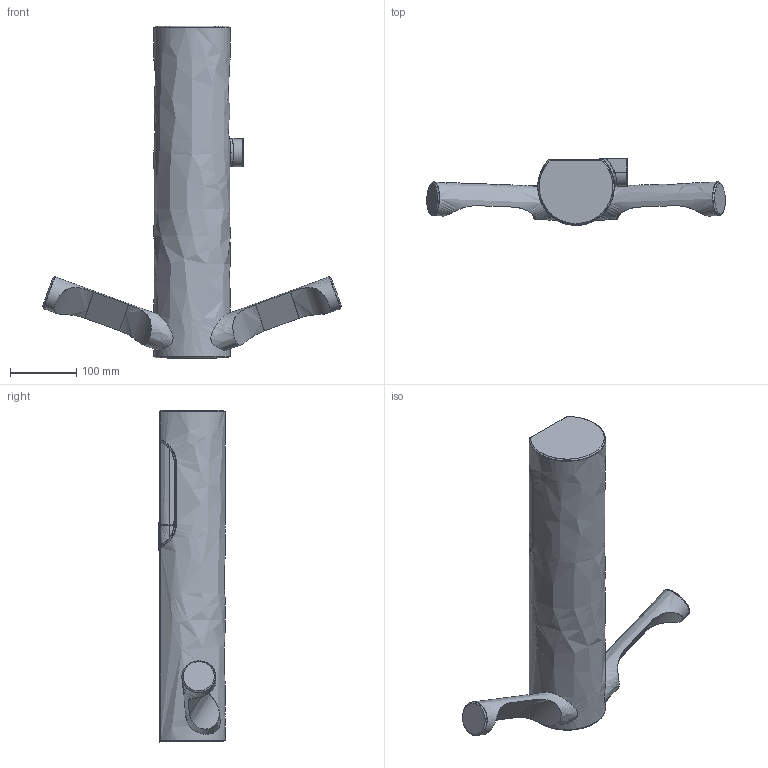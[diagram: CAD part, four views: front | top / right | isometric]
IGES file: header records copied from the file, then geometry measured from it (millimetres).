
Global section: file name: \\global.corp\data\local\MY\departments\VDI\MYVDI-Desktops\asamzaini\Desktop\9KJ CAD\9KJ 3D\SB-159985_AA - 9KJ WITH CONDUIT RIGHT.igs; native system: NX V11.0; preprocessor: SIEMENS PLM Software NX 11.0; date: 20191113.142044; units: millimetre
Bounding box: 449.26 x 100 x 499.5 mm (x, y, z)
Surface area: 252601.5 mm2 (no closed solid volume)
Topology: 0 solids, 0 shells, 350 faces, 3716 edges, 4601 vertices
Faces by surface type: bspline 342, offset 8
